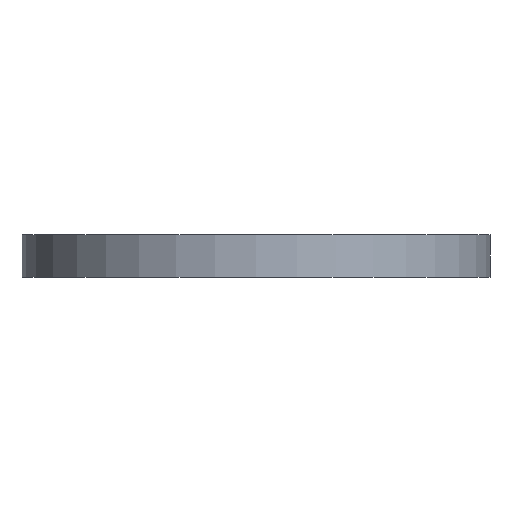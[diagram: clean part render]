
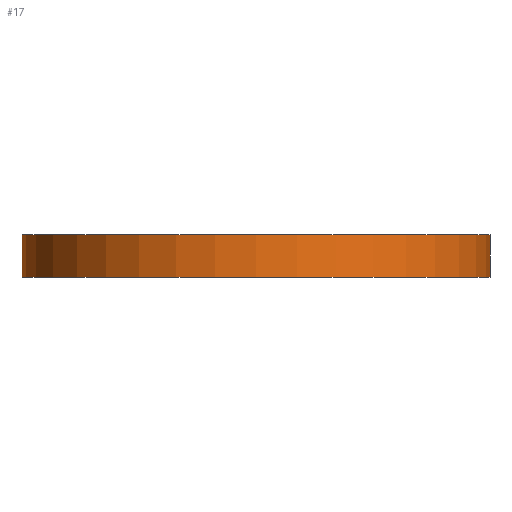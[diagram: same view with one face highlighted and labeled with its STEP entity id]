
A CAD part, front view. The second image highlights one B-rep face of the part: STEP entity #17.
In plain terms, the highlighted cylindrical face has radius 110 mm (diameter 220 mm), a full revolution.
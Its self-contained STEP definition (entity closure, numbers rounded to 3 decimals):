
#17 = ADVANCED_FACE('',(#18),#31,.T.);
#18 = FACE_BOUND('',#19,.T.);
#19 = EDGE_LOOP('',(#20,#54,#77,#104));
#20 = ORIENTED_EDGE('',*,*,#21,.F.);
#21 = EDGE_CURVE('',#22,#22,#24,.T.);
#22 = VERTEX_POINT('',#23);
#23 = CARTESIAN_POINT('',(110.,0.,20.));
#24 = SURFACE_CURVE('',#25,(#30,#42),.PCURVE_S1.);
#25 = CIRCLE('',#26,110.);
#26 = AXIS2_PLACEMENT_3D('',#27,#28,#29);
#27 = CARTESIAN_POINT('',(0.,0.,20.));
#28 = DIRECTION('',(0.,0.,1.));
#29 = DIRECTION('',(1.,0.,-0.));
#30 = PCURVE('',#31,#36);
#31 = CYLINDRICAL_SURFACE('',#32,110.);
#32 = AXIS2_PLACEMENT_3D('',#33,#34,#35);
#33 = CARTESIAN_POINT('',(0.,0.,0.));
#34 = DIRECTION('',(0.,0.,1.));
#35 = DIRECTION('',(1.,0.,-0.));
#36 = DEFINITIONAL_REPRESENTATION('',(#37),#41);
#37 = LINE('',#38,#39);
#38 = CARTESIAN_POINT('',(0.,20.));
#39 = VECTOR('',#40,1.);
#40 = DIRECTION('',(1.,0.));
#41 = ( GEOMETRIC_REPRESENTATION_CONTEXT(2) 
PARAMETRIC_REPRESENTATION_CONTEXT() REPRESENTATION_CONTEXT('2D SPACE',''
  ) );
#42 = PCURVE('',#43,#48);
#43 = PLANE('',#44);
#44 = AXIS2_PLACEMENT_3D('',#45,#46,#47);
#45 = CARTESIAN_POINT('',(0.,0.,20.));
#46 = DIRECTION('',(0.,0.,1.));
#47 = DIRECTION('',(1.,0.,-0.));
#48 = DEFINITIONAL_REPRESENTATION('',(#49),#53);
#49 = CIRCLE('',#50,110.);
#50 = AXIS2_PLACEMENT_2D('',#51,#52);
#51 = CARTESIAN_POINT('',(0.,0.));
#52 = DIRECTION('',(1.,0.));
#53 = ( GEOMETRIC_REPRESENTATION_CONTEXT(2) 
PARAMETRIC_REPRESENTATION_CONTEXT() REPRESENTATION_CONTEXT('2D SPACE',''
  ) );
#54 = ORIENTED_EDGE('',*,*,#55,.F.);
#55 = EDGE_CURVE('',#56,#22,#58,.T.);
#56 = VERTEX_POINT('',#57);
#57 = CARTESIAN_POINT('',(110.,0.,0.));
#58 = SEAM_CURVE('',#59,(#63,#70),.PCURVE_S1.);
#59 = LINE('',#60,#61);
#60 = CARTESIAN_POINT('',(110.,0.,0.));
#61 = VECTOR('',#62,1.);
#62 = DIRECTION('',(0.,0.,1.));
#63 = PCURVE('',#31,#64);
#64 = DEFINITIONAL_REPRESENTATION('',(#65),#69);
#65 = LINE('',#66,#67);
#66 = CARTESIAN_POINT('',(6.283,-0.));
#67 = VECTOR('',#68,1.);
#68 = DIRECTION('',(0.,1.));
#69 = ( GEOMETRIC_REPRESENTATION_CONTEXT(2) 
PARAMETRIC_REPRESENTATION_CONTEXT() REPRESENTATION_CONTEXT('2D SPACE',''
  ) );
#70 = PCURVE('',#31,#71);
#71 = DEFINITIONAL_REPRESENTATION('',(#72),#76);
#72 = LINE('',#73,#74);
#73 = CARTESIAN_POINT('',(0.,-0.));
#74 = VECTOR('',#75,1.);
#75 = DIRECTION('',(0.,1.));
#76 = ( GEOMETRIC_REPRESENTATION_CONTEXT(2) 
PARAMETRIC_REPRESENTATION_CONTEXT() REPRESENTATION_CONTEXT('2D SPACE',''
  ) );
#77 = ORIENTED_EDGE('',*,*,#78,.T.);
#78 = EDGE_CURVE('',#56,#56,#79,.T.);
#79 = SURFACE_CURVE('',#80,(#85,#92),.PCURVE_S1.);
#80 = CIRCLE('',#81,110.);
#81 = AXIS2_PLACEMENT_3D('',#82,#83,#84);
#82 = CARTESIAN_POINT('',(0.,0.,0.));
#83 = DIRECTION('',(0.,0.,1.));
#84 = DIRECTION('',(1.,0.,-0.));
#85 = PCURVE('',#31,#86);
#86 = DEFINITIONAL_REPRESENTATION('',(#87),#91);
#87 = LINE('',#88,#89);
#88 = CARTESIAN_POINT('',(0.,0.));
#89 = VECTOR('',#90,1.);
#90 = DIRECTION('',(1.,0.));
#91 = ( GEOMETRIC_REPRESENTATION_CONTEXT(2) 
PARAMETRIC_REPRESENTATION_CONTEXT() REPRESENTATION_CONTEXT('2D SPACE',''
  ) );
#92 = PCURVE('',#93,#98);
#93 = PLANE('',#94);
#94 = AXIS2_PLACEMENT_3D('',#95,#96,#97);
#95 = CARTESIAN_POINT('',(0.,0.,0.));
#96 = DIRECTION('',(0.,0.,1.));
#97 = DIRECTION('',(1.,0.,-0.));
#98 = DEFINITIONAL_REPRESENTATION('',(#99),#103);
#99 = CIRCLE('',#100,110.);
#100 = AXIS2_PLACEMENT_2D('',#101,#102);
#101 = CARTESIAN_POINT('',(0.,0.));
#102 = DIRECTION('',(1.,0.));
#103 = ( GEOMETRIC_REPRESENTATION_CONTEXT(2) 
PARAMETRIC_REPRESENTATION_CONTEXT() REPRESENTATION_CONTEXT('2D SPACE',''
  ) );
#104 = ORIENTED_EDGE('',*,*,#55,.T.);
